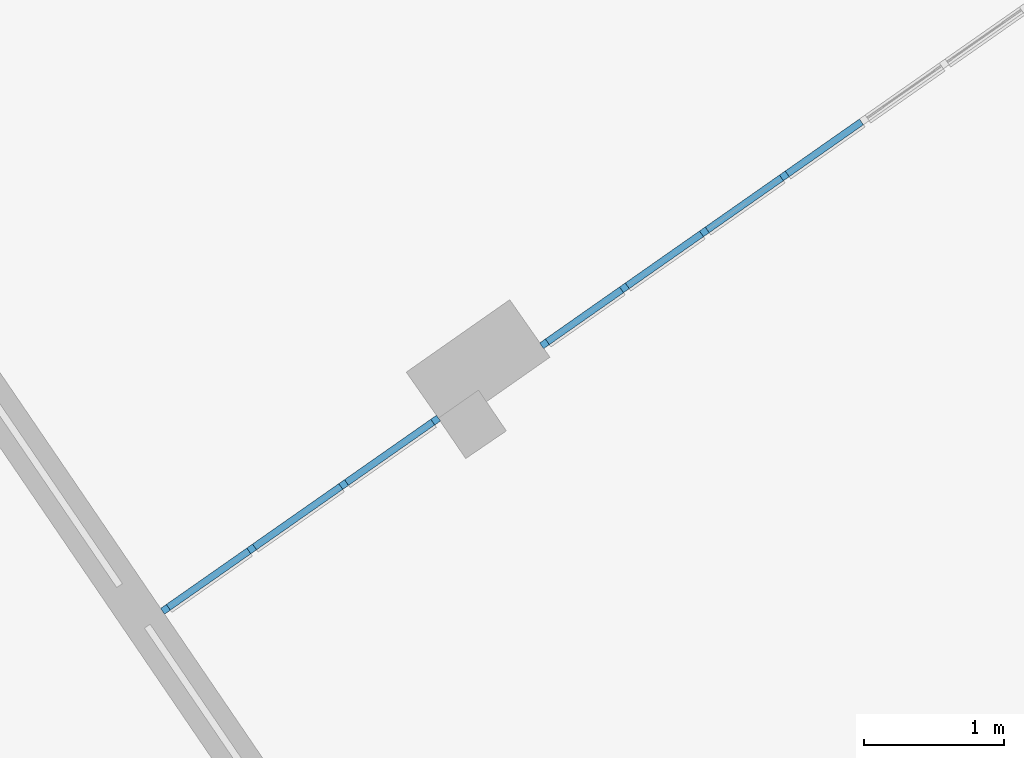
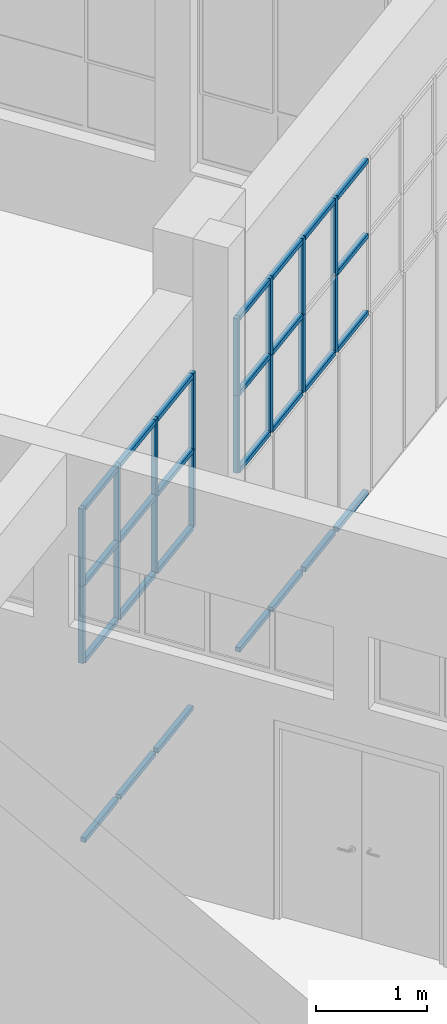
# One storey, part 36 of 157: 43 members, 2 elements without a shape of their own.
"""IFC2X3 building model written with IfcOpenShell, lengths in millimetres."""

from ifc_helpers import new_model, entity, si_unit, converted_unit, derived_unit, direction, frame, origin, origin_2d_with_axis, place, context, subcontext, project, spatial, rectangle, extrude, source, transform, mapped, material, type_object, type_shapes, element, aggregate, save


model = new_model("IFC2X3")

# Units and contexts
model_context = context("Model", 3, precision=0.01, world=origin(), true_north=direction((6.123031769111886e-17, 1.0)))
body_context = subcontext(model_context, "Body", "Model", "MODEL_VIEW")
ifc_project = project(units=[si_unit("LENGTHUNIT", "METRE", prefix="MILLI"), si_unit("AREAUNIT", "SQUARE_METRE"), si_unit("VOLUMEUNIT", "CUBIC_METRE"), converted_unit("PLANEANGLEUNIT", "DEGREE", entity("IfcRatioMeasure", 0.017453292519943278), si_unit("PLANEANGLEUNIT", "RADIAN"), dimensions=[0, 0, 0, 0, 0, 0, 0]), si_unit("MASSUNIT", "GRAM", prefix="KILO"), derived_unit("MASSDENSITYUNIT", [(si_unit("MASSUNIT", "GRAM", prefix="KILO"), 1), (si_unit("LENGTHUNIT", "METRE"), -3)]), derived_unit("MOMENTOFINERTIAUNIT", [(si_unit("LENGTHUNIT", "METRE"), 4)]), si_unit("TIMEUNIT", "SECOND"), si_unit("FREQUENCYUNIT", "HERTZ"), si_unit("THERMODYNAMICTEMPERATUREUNIT", "DEGREE_CELSIUS"), derived_unit("THERMALTRANSMITTANCEUNIT", [(si_unit("MASSUNIT", "GRAM", prefix="KILO"), 1), (si_unit("THERMODYNAMICTEMPERATUREUNIT", "KELVIN"), -1), (si_unit("TIMEUNIT", "SECOND"), -3)]), derived_unit("THERMALCONDUCTANCEUNIT", [(si_unit("MASSUNIT", "GRAM", prefix="KILO"), 1), (si_unit("LENGTHUNIT", "METRE"), 1), (si_unit("THERMODYNAMICTEMPERATUREUNIT", "KELVIN"), -1), (si_unit("TIMEUNIT", "SECOND"), -3)]), derived_unit("VOLUMETRICFLOWRATEUNIT", [(si_unit("LENGTHUNIT", "METRE"), 3), (si_unit("TIMEUNIT", "SECOND"), -1)]), derived_unit("MASSFLOWRATEUNIT", [(si_unit("MASSUNIT", "GRAM", prefix="KILO"), 1), (si_unit("TIMEUNIT", "SECOND"), -1)]), derived_unit("ROTATIONALFREQUENCYUNIT", [(si_unit("TIMEUNIT", "SECOND"), -1)]), si_unit("ELECTRICCURRENTUNIT", "AMPERE"), si_unit("ELECTRICVOLTAGEUNIT", "VOLT"), si_unit("POWERUNIT", "WATT"), converted_unit("FORCEUNIT", "KIP", entity("IfcRatioMeasure", 2.088543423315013e-05), si_unit("FORCEUNIT", "NEWTON"), dimensions=[1, 1, -2, 0, 0, 0, 0]), si_unit("ILLUMINANCEUNIT", "LUX"), si_unit("LUMINOUSFLUXUNIT", "LUMEN"), si_unit("LUMINOUSINTENSITYUNIT", "CANDELA"), derived_unit("USERDEFINED", [(si_unit("MASSUNIT", "GRAM", prefix="KILO"), -1), (si_unit("LENGTHUNIT", "METRE"), -2), (si_unit("TIMEUNIT", "SECOND"), 3), (si_unit("LUMINOUSFLUXUNIT", "LUMEN"), 1)]), derived_unit("USERDEFINED", [(si_unit("MASSUNIT", "GRAM", prefix="KILO"), 1), (si_unit("LENGTHUNIT", "METRE"), 3), (si_unit("TIMEUNIT", "SECOND"), -3), (si_unit("ELECTRICCURRENTUNIT", "AMPERE"), -2)]), derived_unit("USERDEFINED", [(si_unit("LENGTHUNIT", "METRE"), 2), (si_unit("TIMEUNIT", "SECOND"), -2)]), derived_unit("SOUNDPOWERUNIT", [(si_unit("MASSUNIT", "GRAM", prefix="KILO"), 1), (si_unit("LENGTHUNIT", "METRE"), 2), (si_unit("TIMEUNIT", "SECOND"), -3)]), derived_unit("SOUNDPRESSUREUNIT", [(si_unit("MASSUNIT", "GRAM", prefix="KILO"), 1), (si_unit("LENGTHUNIT", "METRE"), -1), (si_unit("TIMEUNIT", "SECOND"), -2)]), derived_unit("LINEARVELOCITYUNIT", [(si_unit("LENGTHUNIT", "METRE"), 1), (si_unit("TIMEUNIT", "SECOND"), -1)]), si_unit("PRESSUREUNIT", "PASCAL"), derived_unit("USERDEFINED", [(si_unit("LENGTHUNIT", "METRE"), -2), (si_unit("MASSUNIT", "GRAM", prefix="KILO"), 1), (si_unit("TIMEUNIT", "SECOND"), -2)]), derived_unit("LINEARFORCEUNIT", [(si_unit("MASSUNIT", "GRAM", prefix="KILO"), 1), (si_unit("LENGTHUNIT", "METRE"), 1), (si_unit("TIMEUNIT", "SECOND"), -2), (si_unit("LENGTHUNIT", "METRE"), -1)]), derived_unit("PLANARFORCEUNIT", [(si_unit("MASSUNIT", "GRAM", prefix="KILO"), 1), (si_unit("LENGTHUNIT", "METRE"), 1), (si_unit("TIMEUNIT", "SECOND"), -2), (si_unit("LENGTHUNIT", "METRE"), -2)]), derived_unit("SPECIFICHEATCAPACITYUNIT", [(si_unit("LENGTHUNIT", "METRE"), 2), (si_unit("TIMEUNIT", "SECOND"), -2), (si_unit("THERMODYNAMICTEMPERATUREUNIT", "KELVIN"), -1)]), derived_unit("VAPORPERMEABILITYUNIT", [(si_unit("TIMEUNIT", "SECOND"), 1), (si_unit("LENGTHUNIT", "METRE"), -1)]), derived_unit("DYNAMICVISCOSITYUNIT", [(si_unit("MASSUNIT", "GRAM", prefix="KILO"), 1), (si_unit("LENGTHUNIT", "METRE"), -1), (si_unit("TIMEUNIT", "SECOND"), -1)]), derived_unit("THERMALEXPANSIONCOEFFICIENTUNIT", [(si_unit("THERMODYNAMICTEMPERATUREUNIT", "KELVIN"), -1)])], contexts=[model_context])

# Site, building, storey
site_placement = place(None, frame((0.0, 0.0, 0.0), z_axis=(0.0, 0.0, 1.0), x_axis=(0.8191520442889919, 0.5735764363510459, 0.0)))
site = spatial("IfcSite", under=ifc_project, at=site_placement, Name="Default", CompositionType="ELEMENT")
building_placement = place(site_placement, origin())
building = spatial("IfcBuilding", under=site, at=building_placement, CompositionType="ELEMENT")
storey_placement = place(building_placement, origin())
storey = spatial("IfcBuildingStorey", under=building, at=storey_placement, Name="1.EG +0.00", CompositionType="ELEMENT", Elevation=-4.331468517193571e-12)

# Curtain wall, members
curtain_wall_type = type_object("IfcCurtainWallType", Name="Curtain Wall:Curtain_Wall_CJC_Int5", PredefinedType="NOTDEFINED")
curtain_wall_1_placement = place(storey_placement, origin())
curtain_wall_1 = element("IfcCurtainWall", 1, at=curtain_wall_1_placement, inside=storey, type_object=curtain_wall_type, Name="Curtain Wall:Curtain_Wall_CJC_Int5", ObjectType="Curtain Wall:Curtain_Wall_CJC_Int5")
ifc_material = material(Name="Aluminium")
member_type_1 = type_object("IfcMemberType", Name="Rectangular Mullion:5x5", PredefinedType="MULLION", material=ifc_material)
shared_shape_1 = source(origin(), body_context, "Body", "SweptSolid", [
    extrude(rectangle(XDim=50.0, YDim=50.0, at=origin_2d_with_axis()), frame((-25.0, 0.0, -850.0), z_axis=(0.0, 0.0, 1.0), x_axis=(0.0, -1.0, 0.0)), (0.0, 0.0, 1.0), 850.0),
])
type_shapes(member_type_1, [shared_shape_1])
member_1_placement = place(curtain_wall_1_placement, frame((-210936.61448951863, 79246.35891435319, 3700.0), z_axis=(0.0, 0.0, 1.0), x_axis=(-1.0, 0.0, 0.0)))
member_1 = element("IfcMember", 2, at=member_1_placement, type_object=member_type_1, material=ifc_material, Name="Rectangular Mullion:5x5", ObjectType="Rectangular Mullion:5x5", context=body_context, shape_type="MappedRepresentation", body=[
    mapped(shared_shape_1, transform((0.0, 0.0, 0.0), scale=1.0)),
])
member_type_2 = type_object("IfcMemberType", Name="Rectangular Mullion:5x5", PredefinedType="MULLION", material=ifc_material)
shared_shape_2 = source(origin(), body_context, "Body", "SweptSolid", [
    extrude(rectangle(XDim=50.000000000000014, YDim=50.0, at=origin_2d_with_axis()), frame((-25.0, 0.0, -646.0959133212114), z_axis=(0.0, 0.0, 1.0), x_axis=(0.0, -1.0, 0.0)), (0.0, 0.0, 1.0), 646.0959133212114),
])
type_shapes(member_type_2, [shared_shape_2])
member_2_placement = place(curtain_wall_1_placement, frame((-208848.32675016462, 79246.35891435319, 3700.0), z_axis=(1.0, 0.0, 0.0), x_axis=(0.0, 0.0, 1.0)))
member_2 = element("IfcMember", 3, at=member_2_placement, type_object=member_type_2, material=ifc_material, Name="Rectangular Mullion:5x5", ObjectType="Rectangular Mullion:5x5", context=body_context, shape_type="MappedRepresentation", body=[
    mapped(shared_shape_2, transform((0.0, 0.0, 0.0), scale=1.0)),
])
member_3_placement = place(curtain_wall_1_placement, frame((-208152.23083714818, 79246.35891435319, 3700.0), z_axis=(1.0, 0.0, 0.0), x_axis=(0.0, 0.0, 1.0)))
member_3 = element("IfcMember", 4, at=member_3_placement, type_object=member_type_2, material=ifc_material, Name="Rectangular Mullion:5x5", ObjectType="Rectangular Mullion:5x5", context=body_context, shape_type="MappedRepresentation", body=[
    mapped(shared_shape_2, transform((0.0, 0.0, 0.0), scale=1.0)),
])
member_4_placement = place(curtain_wall_1_placement, frame((-210240.51857619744, 79246.35891435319, 3700.0), z_axis=(1.0, 0.0, 0.0), x_axis=(0.0, 0.0, 1.0)))
member_4 = element("IfcMember", 5, at=member_4_placement, type_object=member_type_2, material=ifc_material, Name="Rectangular Mullion:5x5", ObjectType="Rectangular Mullion:5x5", context=body_context, shape_type="MappedRepresentation", body=[
    mapped(shared_shape_2, transform((0.0, 0.0, 0.0), scale=1.0)),
])
member_5_placement = place(curtain_wall_1_placement, frame((-209544.422663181, 79246.35891435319, 3700.0), z_axis=(1.0, 0.0, 0.0), x_axis=(0.0, 0.0, 1.0)))
member_5 = element("IfcMember", 6, at=member_5_placement, type_object=member_type_2, material=ifc_material, Name="Rectangular Mullion:5x5", ObjectType="Rectangular Mullion:5x5", context=body_context, shape_type="MappedRepresentation", body=[
    mapped(shared_shape_2, transform((0.0, 0.0, 0.0), scale=1.0)),
])
member_type_3 = type_object("IfcMemberType", Name="Rectangular Mullion:5x5", PredefinedType="MULLION", material=ifc_material)
shared_shape_3 = source(origin(), body_context, "Body", "SweptSolid", [
    extrude(rectangle(XDim=50.000000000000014, YDim=50.0, at=origin_2d_with_axis()), frame((-25.0, 0.0, -646.0959133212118), z_axis=(0.0, 0.0, 1.0), x_axis=(0.0, -1.0, 0.0)), (0.0, 0.0, 1.0), 646.0959133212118),
])
type_shapes(member_type_3, [shared_shape_3])
member_6_placement = place(curtain_wall_1_placement, frame((-210886.61448951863, 79246.35891435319, 0.0), z_axis=(-1.0, 0.0, 0.0), x_axis=(0.0, 0.0, -1.0)))
member_6 = element("IfcMember", 7, at=member_6_placement, type_object=member_type_3, material=ifc_material, Name="Rectangular Mullion:5x5", ObjectType="Rectangular Mullion:5x5", context=body_context, shape_type="MappedRepresentation", body=[
    mapped(shared_shape_3, transform((0.0, 0.0, 0.0), scale=1.0)),
])
member_7_placement = place(curtain_wall_1_placement, frame((-208798.3267501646, 79246.35891435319, 0.0), z_axis=(-1.0, 0.0, 0.0), x_axis=(0.0, 0.0, -1.0)))
member_7 = element("IfcMember", 8, at=member_7_placement, type_object=member_type_3, material=ifc_material, Name="Rectangular Mullion:5x5", ObjectType="Rectangular Mullion:5x5", context=body_context, shape_type="MappedRepresentation", body=[
    mapped(shared_shape_3, transform((0.0, 0.0, 0.0), scale=1.0)),
])
member_8_placement = place(curtain_wall_1_placement, frame((-210190.5185761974, 79246.35891435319, 0.0), z_axis=(-1.0, 0.0, 0.0), x_axis=(0.0, 0.0, -1.0)))
member_8 = element("IfcMember", 9, at=member_8_placement, type_object=member_type_3, material=ifc_material, Name="Rectangular Mullion:5x5", ObjectType="Rectangular Mullion:5x5", context=body_context, shape_type="MappedRepresentation", body=[
    mapped(shared_shape_3, transform((0.0, 0.0, 0.0), scale=1.0)),
])
member_9_placement = place(curtain_wall_1_placement, frame((-209494.42266318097, 79246.35891435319, 0.0), z_axis=(-1.0, 0.0, 0.0), x_axis=(0.0, 0.0, -1.0)))
member_9 = element("IfcMember", 10, at=member_9_placement, type_object=member_type_3, material=ifc_material, Name="Rectangular Mullion:5x5", ObjectType="Rectangular Mullion:5x5", context=body_context, shape_type="MappedRepresentation", body=[
    mapped(shared_shape_3, transform((0.0, 0.0, 0.0), scale=1.0)),
])
member_type_4 = type_object("IfcMemberType", Name="Rectangular Mullion:5x5", PredefinedType="MULLION", material=ifc_material)
shared_shape_4 = source(origin(), body_context, "Body", "SweptSolid", [
    extrude(rectangle(XDim=50.0, YDim=50.0, at=origin_2d_with_axis()), frame((-25.0, 0.0, -850.0), z_axis=(0.0, 0.0, 1.0), x_axis=(0.0, -1.0, 0.0)), (0.0, 0.0, 1.0), 850.0),
])
type_shapes(member_type_4, [shared_shape_4])
member_10_placement = place(curtain_wall_1_placement, frame((-210936.61448951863, 79246.35891435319, 2850.0), z_axis=(0.0, 0.0, 1.0), x_axis=(-1.0, 0.0, 0.0)))
member_10 = element("IfcMember", 11, at=member_10_placement, type_object=member_type_4, material=ifc_material, Name="Rectangular Mullion:5x5", ObjectType="Rectangular Mullion:5x5", context=body_context, shape_type="MappedRepresentation", body=[
    mapped(shared_shape_4, transform((0.0, 0.0, 0.0), scale=1.0)),
])
member_type_5 = type_object("IfcMemberType", Name="Rectangular Mullion:5x5", PredefinedType="MULLION", material=ifc_material)
shared_shape_5 = source(origin(), body_context, "Body", "SweptSolid", [
    extrude(rectangle(XDim=50.0, YDim=50.0, at=origin_2d_with_axis()), frame((0.0, 0.0, -646.0959133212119), z_axis=(0.0, 0.0, 1.0), x_axis=(0.0, -1.0, 0.0)), (0.0, 0.0, 1.0), 646.0959133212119),
])
type_shapes(member_type_5, [shared_shape_5])
member_11_placement = place(curtain_wall_1_placement, frame((-210240.51857619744, 79246.35891435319, 2000.0), z_axis=(1.0, 0.0, 0.0), x_axis=(0.0, 0.0, 1.0)))
member_11 = element("IfcMember", 12, at=member_11_placement, type_object=member_type_5, material=ifc_material, Name="Rectangular Mullion:5x5", ObjectType="Rectangular Mullion:5x5", context=body_context, shape_type="MappedRepresentation", body=[
    mapped(shared_shape_5, transform((0.0, 0.0, 0.0), scale=1.0)),
])
member_12_placement = place(curtain_wall_1_placement, frame((-208152.23083714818, 79246.35891435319, 2000.0), z_axis=(1.0, 0.0, 0.0), x_axis=(0.0, 0.0, 1.0)))
member_12 = element("IfcMember", 13, at=member_12_placement, type_object=member_type_5, material=ifc_material, Name="Rectangular Mullion:5x5", ObjectType="Rectangular Mullion:5x5", context=body_context, shape_type="MappedRepresentation", body=[
    mapped(shared_shape_5, transform((0.0, 0.0, 0.0), scale=1.0)),
])
member_13_placement = place(curtain_wall_1_placement, frame((-210240.51857619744, 79246.35891435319, 2850.0), z_axis=(1.0, 0.0, 0.0), x_axis=(0.0, 0.0, 1.0)))
member_13 = element("IfcMember", 14, at=member_13_placement, type_object=member_type_5, material=ifc_material, Name="Rectangular Mullion:5x5", ObjectType="Rectangular Mullion:5x5", context=body_context, shape_type="MappedRepresentation", body=[
    mapped(shared_shape_5, transform((0.0, 0.0, 0.0), scale=1.0)),
])
member_14_placement = place(curtain_wall_1_placement, frame((-208152.23083714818, 79246.35891435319, 2850.0), z_axis=(1.0, 0.0, 0.0), x_axis=(0.0, 0.0, 1.0)))
member_14 = element("IfcMember", 15, at=member_14_placement, type_object=member_type_5, material=ifc_material, Name="Rectangular Mullion:5x5", ObjectType="Rectangular Mullion:5x5", context=body_context, shape_type="MappedRepresentation", body=[
    mapped(shared_shape_5, transform((0.0, 0.0, 0.0), scale=1.0)),
])
member_15_placement = place(curtain_wall_1_placement, frame((-209544.422663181, 79246.35891435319, 2000.0), z_axis=(1.0, 0.0, 0.0), x_axis=(0.0, 0.0, 1.0)))
member_15 = element("IfcMember", 16, at=member_15_placement, type_object=member_type_5, material=ifc_material, Name="Rectangular Mullion:5x5", ObjectType="Rectangular Mullion:5x5", context=body_context, shape_type="MappedRepresentation", body=[
    mapped(shared_shape_5, transform((0.0, 0.0, 0.0), scale=1.0)),
])
member_16_placement = place(curtain_wall_1_placement, frame((-208848.32675016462, 79246.35891435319, 2000.0), z_axis=(1.0, 0.0, 0.0), x_axis=(0.0, 0.0, 1.0)))
member_16 = element("IfcMember", 17, at=member_16_placement, type_object=member_type_5, material=ifc_material, Name="Rectangular Mullion:5x5", ObjectType="Rectangular Mullion:5x5", context=body_context, shape_type="MappedRepresentation", body=[
    mapped(shared_shape_5, transform((0.0, 0.0, 0.0), scale=1.0)),
])
member_17_placement = place(curtain_wall_1_placement, frame((-209544.422663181, 79246.35891435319, 2850.0), z_axis=(1.0, 0.0, 0.0), x_axis=(0.0, 0.0, 1.0)))
member_17 = element("IfcMember", 18, at=member_17_placement, type_object=member_type_5, material=ifc_material, Name="Rectangular Mullion:5x5", ObjectType="Rectangular Mullion:5x5", context=body_context, shape_type="MappedRepresentation", body=[
    mapped(shared_shape_5, transform((0.0, 0.0, 0.0), scale=1.0)),
])
member_type_6 = type_object("IfcMemberType", Name="Rectangular Mullion:5x5", PredefinedType="MULLION", material=ifc_material)
shared_shape_6 = source(origin(), body_context, "Body", "SweptSolid", [
    extrude(rectangle(XDim=50.0, YDim=50.0, at=origin_2d_with_axis()), frame((0.0, 0.0, -850.0), z_axis=(0.0, 0.0, 1.0), x_axis=(0.0, -1.0, 0.0)), (0.0, 0.0, 1.0), 850.0),
])
type_shapes(member_type_6, [shared_shape_6])
member_18_placement = place(curtain_wall_1_placement, frame((-208823.3267501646, 79246.35891435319, 2000.0), z_axis=(0.0, 0.0, -1.0), x_axis=(1.0, 0.0, 0.0)))
member_18 = element("IfcMember", 19, at=member_18_placement, type_object=member_type_6, material=ifc_material, Name="Rectangular Mullion:5x5", ObjectType="Rectangular Mullion:5x5", context=body_context, shape_type="MappedRepresentation", body=[
    mapped(shared_shape_6, transform((0.0, 0.0, 0.0), scale=1.0)),
])
member_19_placement = place(curtain_wall_1_placement, frame((-209519.422663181, 79246.35891435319, 2000.0), z_axis=(0.0, 0.0, -1.0), x_axis=(1.0, 0.0, 0.0)))
member_19 = element("IfcMember", 20, at=member_19_placement, type_object=member_type_6, material=ifc_material, Name="Rectangular Mullion:5x5", ObjectType="Rectangular Mullion:5x5", context=body_context, shape_type="MappedRepresentation", body=[
    mapped(shared_shape_6, transform((0.0, 0.0, 0.0), scale=1.0)),
])
member_20_placement = place(curtain_wall_1_placement, frame((-210215.5185761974, 79246.35891435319, 2000.0), z_axis=(0.0, 0.0, -1.0), x_axis=(1.0, 0.0, 0.0)))
member_20 = element("IfcMember", 21, at=member_20_placement, type_object=member_type_6, material=ifc_material, Name="Rectangular Mullion:5x5", ObjectType="Rectangular Mullion:5x5", context=body_context, shape_type="MappedRepresentation", body=[
    mapped(shared_shape_6, transform((0.0, 0.0, 0.0), scale=1.0)),
])
member_type_7 = type_object("IfcMemberType", Name="Rectangular Mullion:5x5", PredefinedType="MULLION", material=ifc_material)
shared_shape_7 = source(origin(), body_context, "Body", "SweptSolid", [
    extrude(rectangle(XDim=50.0, YDim=50.0, at=origin_2d_with_axis()), frame((0.0, 0.0, -850.0), z_axis=(0.0, 0.0, 1.0), x_axis=(0.0, -1.0, 0.0)), (0.0, 0.0, 1.0), 850.0),
])
type_shapes(member_type_7, [shared_shape_7])
member_21_placement = place(curtain_wall_1_placement, frame((-208823.3267501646, 79246.35891435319, 2850.0), z_axis=(0.0, 0.0, -1.0), x_axis=(1.0, 0.0, 0.0)))
member_21 = element("IfcMember", 22, at=member_21_placement, type_object=member_type_7, material=ifc_material, Name="Rectangular Mullion:5x5", ObjectType="Rectangular Mullion:5x5", context=body_context, shape_type="MappedRepresentation", body=[
    mapped(shared_shape_7, transform((0.0, 0.0, 0.0), scale=1.0)),
])
member_22_placement = place(curtain_wall_1_placement, frame((-209519.422663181, 79246.35891435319, 2850.0), z_axis=(0.0, 0.0, -1.0), x_axis=(1.0, 0.0, 0.0)))
member_22 = element("IfcMember", 23, at=member_22_placement, type_object=member_type_7, material=ifc_material, Name="Rectangular Mullion:5x5", ObjectType="Rectangular Mullion:5x5", context=body_context, shape_type="MappedRepresentation", body=[
    mapped(shared_shape_7, transform((0.0, 0.0, 0.0), scale=1.0)),
])
member_23_placement = place(curtain_wall_1_placement, frame((-210215.5185761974, 79246.35891435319, 2850.0), z_axis=(0.0, 0.0, -1.0), x_axis=(1.0, 0.0, 0.0)))
member_23 = element("IfcMember", 24, at=member_23_placement, type_object=member_type_7, material=ifc_material, Name="Rectangular Mullion:5x5", ObjectType="Rectangular Mullion:5x5", context=body_context, shape_type="MappedRepresentation", body=[
    mapped(shared_shape_7, transform((0.0, 0.0, 0.0), scale=1.0)),
])
aggregate(curtain_wall_1, [member_1, member_2, member_6, member_10, member_3, member_7, member_11, member_12, member_13, member_14, member_18, member_21, member_4, member_5, member_8, member_9, member_15, member_16, member_17, member_19, member_20, member_22, member_23])

curtain_wall_2_placement = place(storey_placement, origin())
curtain_wall_2 = element("IfcCurtainWall", 25, at=curtain_wall_2_placement, inside=storey, type_object=curtain_wall_type, Name="Curtain Wall:Curtain_Wall_CJC_Int5", ObjectType="Curtain Wall:Curtain_Wall_CJC_Int5")
member_type_8 = type_object("IfcMemberType", Name="Rectangular Mullion:5x5", PredefinedType="MULLION", material=ifc_material)
shared_shape_8 = source(origin(), body_context, "Body", "SweptSolid", [
    extrude(rectangle(XDim=50.000000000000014, YDim=50.0, at=origin_2d_with_axis()), frame((-25.0, 0.0, -700.7135105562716), z_axis=(0.0, 0.0, 1.0), x_axis=(0.0, -1.0, 0.0)), (0.0, 0.0, 1.0), 700.7135105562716),
])
type_shapes(member_type_8, [shared_shape_8])
member_24_placement = place(curtain_wall_2_placement, frame((-214186.56981545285, 79245.87276745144, 3700.0), z_axis=(-1.0, 0.0, 0.0), x_axis=(0.0, 0.0, 1.0)))
member_24 = element("IfcMember", 26, at=member_24_placement, type_object=member_type_8, material=ifc_material, Name="Rectangular Mullion:5x5", ObjectType="Rectangular Mullion:5x5", context=body_context, shape_type="MappedRepresentation", body=[
    mapped(shared_shape_8, transform((0.0, 0.0, 0.0), scale=1.0)),
])
member_type_9 = type_object("IfcMemberType", Name="Rectangular Mullion:5x5", PredefinedType="MULLION", material=ifc_material)
shared_shape_9 = source(origin(), body_context, "Body", "SweptSolid", [
    extrude(rectangle(XDim=50.000000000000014, YDim=50.0, at=origin_2d_with_axis()), frame((-25.0, 0.0, -750.7135105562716), z_axis=(0.0, 0.0, 1.0), x_axis=(0.0, -1.0, 0.0)), (0.0, 0.0, 1.0), 750.7135105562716),
])
type_shapes(member_type_9, [shared_shape_9])
member_25_placement = place(curtain_wall_2_placement, frame((-212635.14279464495, 79245.87276745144, 3700.0), z_axis=(-1.0, 0.0, 0.0), x_axis=(0.0, 0.0, 1.0)))
member_25 = element("IfcMember", 27, at=member_25_placement, type_object=member_type_9, material=ifc_material, Name="Rectangular Mullion:5x5", ObjectType="Rectangular Mullion:5x5", context=body_context, shape_type="MappedRepresentation", body=[
    mapped(shared_shape_9, transform((0.0, 0.0, 0.0), scale=1.0)),
])
member_26_placement = place(curtain_wall_2_placement, frame((-213435.85630489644, 79245.87276745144, 3700.0), z_axis=(-1.0, 0.0, 0.0), x_axis=(0.0, 0.0, 1.0)))
member_26 = element("IfcMember", 28, at=member_26_placement, type_object=member_type_9, material=ifc_material, Name="Rectangular Mullion:5x5", ObjectType="Rectangular Mullion:5x5", context=body_context, shape_type="MappedRepresentation", body=[
    mapped(shared_shape_9, transform((0.0, 0.0, 0.0), scale=1.0)),
])
member_type_10 = type_object("IfcMemberType", Name="Rectangular Mullion:5x5", PredefinedType="MULLION", material=ifc_material)
shared_shape_10 = source(origin(), body_context, "Body", "SweptSolid", [
    extrude(rectangle(XDim=50.000000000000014, YDim=50.0, at=origin_2d_with_axis()), frame((-25.0, 0.0, -750.7135105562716), z_axis=(0.0, 0.0, 1.0), x_axis=(0.0, -1.0, 0.0)), (0.0, 0.0, 1.0), 750.7135105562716),
])
type_shapes(member_type_10, [shared_shape_10])
member_27_placement = place(curtain_wall_2_placement, frame((-211884.4292840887, 79245.87276745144, 0.0), z_axis=(1.0, 0.0, 0.0), x_axis=(0.0, 0.0, -1.0)))
member_27 = element("IfcMember", 29, at=member_27_placement, type_object=member_type_10, material=ifc_material, Name="Rectangular Mullion:5x5", ObjectType="Rectangular Mullion:5x5", context=body_context, shape_type="MappedRepresentation", body=[
    mapped(shared_shape_10, transform((0.0, 0.0, 0.0), scale=1.0)),
])
member_28_placement = place(curtain_wall_2_placement, frame((-212685.14279464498, 79245.87276745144, 0.0), z_axis=(1.0, 0.0, 0.0), x_axis=(0.0, 0.0, -1.0)))
member_28 = element("IfcMember", 30, at=member_28_placement, type_object=member_type_10, material=ifc_material, Name="Rectangular Mullion:5x5", ObjectType="Rectangular Mullion:5x5", context=body_context, shape_type="MappedRepresentation", body=[
    mapped(shared_shape_10, transform((0.0, 0.0, 0.0), scale=1.0)),
])
member_type_11 = type_object("IfcMemberType", Name="Rectangular Mullion:5x5", PredefinedType="MULLION", material=ifc_material)
shared_shape_11 = source(origin(), body_context, "Body", "SweptSolid", [
    extrude(rectangle(XDim=50.000000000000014, YDim=50.0, at=origin_2d_with_axis()), frame((-25.0, 0.0, -700.7135105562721), z_axis=(0.0, 0.0, 1.0), x_axis=(0.0, -1.0, 0.0)), (0.0, 0.0, 1.0), 700.7135105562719),
])
type_shapes(member_type_11, [shared_shape_11])
member_29_placement = place(curtain_wall_2_placement, frame((-213485.85630489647, 79245.87276745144, 0.0), z_axis=(1.0, 0.0, 0.0), x_axis=(0.0, 0.0, -1.0)))
member_29 = element("IfcMember", 31, at=member_29_placement, type_object=member_type_11, material=ifc_material, Name="Rectangular Mullion:5x5", ObjectType="Rectangular Mullion:5x5", context=body_context, shape_type="MappedRepresentation", body=[
    mapped(shared_shape_11, transform((0.0, 0.0, 0.0), scale=1.0)),
])
member_type_12 = type_object("IfcMemberType", Name="Rectangular Mullion:5x5", PredefinedType="MULLION", material=ifc_material)
shared_shape_12 = source(origin(), body_context, "Body", "SweptSolid", [
    extrude(rectangle(XDim=50.0, YDim=50.0, at=origin_2d_with_axis()), frame((-25.0, 0.0, -850.0), z_axis=(0.0, 0.0, 1.0), x_axis=(0.0, -1.0, 0.0)), (0.0, 0.0, 1.0), 850.0),
])
type_shapes(member_type_12, [shared_shape_12])
member_30_placement = place(curtain_wall_2_placement, frame((-214236.56981545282, 79245.87276745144, 2000.0), z_axis=(0.0, 0.0, -1.0), x_axis=(-1.0, 0.0, 0.0)))
member_30 = element("IfcMember", 32, at=member_30_placement, type_object=member_type_12, material=ifc_material, Name="Rectangular Mullion:5x5", ObjectType="Rectangular Mullion:5x5", context=body_context, shape_type="MappedRepresentation", body=[
    mapped(shared_shape_12, transform((0.0, 0.0, 0.0), scale=1.0)),
])
member_type_13 = type_object("IfcMemberType", Name="Rectangular Mullion:5x5", PredefinedType="MULLION", material=ifc_material)
shared_shape_13 = source(origin(), body_context, "Body", "SweptSolid", [
    extrude(rectangle(XDim=50.0, YDim=50.0, at=origin_2d_with_axis()), frame((-25.0, 0.0, -850.0), z_axis=(0.0, 0.0, 1.0), x_axis=(0.0, -1.0, 0.0)), (0.0, 0.0, 1.0), 850.0),
])
type_shapes(member_type_13, [shared_shape_13])
member_31_placement = place(curtain_wall_2_placement, frame((-214236.56981545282, 79245.87276745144, 2850.0), z_axis=(0.0, 0.0, -1.0), x_axis=(-1.0, 0.0, 0.0)))
member_31 = element("IfcMember", 33, at=member_31_placement, type_object=member_type_13, material=ifc_material, Name="Rectangular Mullion:5x5", ObjectType="Rectangular Mullion:5x5", context=body_context, shape_type="MappedRepresentation", body=[
    mapped(shared_shape_13, transform((0.0, 0.0, 0.0), scale=1.0)),
])
member_type_14 = type_object("IfcMemberType", Name="Rectangular Mullion:5x5", PredefinedType="MULLION", material=ifc_material)
shared_shape_14 = source(origin(), body_context, "Body", "SweptSolid", [
    extrude(rectangle(XDim=50.0, YDim=50.0, at=origin_2d_with_axis()), frame((-25.0, 0.0, -850.0), z_axis=(0.0, 0.0, 1.0), x_axis=(0.0, -1.0, 0.0)), (0.0, 0.0, 1.0), 850.0),
])
type_shapes(member_type_14, [shared_shape_14])
member_32_placement = place(curtain_wall_2_placement, frame((-211834.42928408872, 79245.87276745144, 3700.0)))
member_32 = element("IfcMember", 34, at=member_32_placement, type_object=member_type_14, material=ifc_material, Name="Rectangular Mullion:5x5", ObjectType="Rectangular Mullion:5x5", context=body_context, shape_type="MappedRepresentation", body=[
    mapped(shared_shape_14, transform((0.0, 0.0, 0.0), scale=1.0)),
])
member_type_15 = type_object("IfcMemberType", Name="Rectangular Mullion:5x5", PredefinedType="MULLION", material=ifc_material)
shared_shape_15 = source(origin(), body_context, "Body", "SweptSolid", [
    extrude(rectangle(XDim=50.0, YDim=50.0, at=origin_2d_with_axis()), frame((-25.0, 0.0, -850.0), z_axis=(0.0, 0.0, 1.0), x_axis=(0.0, -1.0, 0.0)), (0.0, 0.0, 1.0), 850.0),
])
type_shapes(member_type_15, [shared_shape_15])
member_33_placement = place(curtain_wall_2_placement, frame((-211834.42928408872, 79245.87276745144, 2850.0)))
member_33 = element("IfcMember", 35, at=member_33_placement, type_object=member_type_15, material=ifc_material, Name="Rectangular Mullion:5x5", ObjectType="Rectangular Mullion:5x5", context=body_context, shape_type="MappedRepresentation", body=[
    mapped(shared_shape_15, transform((0.0, 0.0, 0.0), scale=1.0)),
])
member_type_16 = type_object("IfcMemberType", Name="Rectangular Mullion:5x5", PredefinedType="MULLION", material=ifc_material)
shared_shape_16 = source(origin(), body_context, "Body", "SweptSolid", [
    extrude(rectangle(XDim=50.0, YDim=50.0, at=origin_2d_with_axis()), frame((0.0, 0.0, -750.7135105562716), z_axis=(0.0, 0.0, 1.0), x_axis=(0.0, -1.0, 0.0)), (0.0, 0.0, 1.0), 750.7135105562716),
])
type_shapes(member_type_16, [shared_shape_16])
member_34_placement = place(curtain_wall_2_placement, frame((-212635.14279464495, 79245.87276745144, 2000.0), z_axis=(-1.0, 0.0, 0.0), x_axis=(0.0, 0.0, 1.0)))
member_34 = element("IfcMember", 36, at=member_34_placement, type_object=member_type_16, material=ifc_material, Name="Rectangular Mullion:5x5", ObjectType="Rectangular Mullion:5x5", context=body_context, shape_type="MappedRepresentation", body=[
    mapped(shared_shape_16, transform((0.0, 0.0, 0.0), scale=1.0)),
])
member_35_placement = place(curtain_wall_2_placement, frame((-213435.85630489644, 79245.87276745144, 2000.0), z_axis=(-1.0, 0.0, 0.0), x_axis=(0.0, 0.0, 1.0)))
member_35 = element("IfcMember", 37, at=member_35_placement, type_object=member_type_16, material=ifc_material, Name="Rectangular Mullion:5x5", ObjectType="Rectangular Mullion:5x5", context=body_context, shape_type="MappedRepresentation", body=[
    mapped(shared_shape_16, transform((0.0, 0.0, 0.0), scale=1.0)),
])
member_36_placement = place(curtain_wall_2_placement, frame((-212635.14279464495, 79245.87276745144, 2850.0), z_axis=(-1.0, 0.0, 0.0), x_axis=(0.0, 0.0, 1.0)))
member_36 = element("IfcMember", 38, at=member_36_placement, type_object=member_type_16, material=ifc_material, Name="Rectangular Mullion:5x5", ObjectType="Rectangular Mullion:5x5", context=body_context, shape_type="MappedRepresentation", body=[
    mapped(shared_shape_16, transform((0.0, 0.0, 0.0), scale=1.0)),
])
member_37_placement = place(curtain_wall_2_placement, frame((-213435.85630489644, 79245.87276745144, 2850.0), z_axis=(-1.0, 0.0, 0.0), x_axis=(0.0, 0.0, 1.0)))
member_37 = element("IfcMember", 39, at=member_37_placement, type_object=member_type_16, material=ifc_material, Name="Rectangular Mullion:5x5", ObjectType="Rectangular Mullion:5x5", context=body_context, shape_type="MappedRepresentation", body=[
    mapped(shared_shape_16, transform((0.0, 0.0, 0.0), scale=1.0)),
])
member_type_17 = type_object("IfcMemberType", Name="Rectangular Mullion:5x5", PredefinedType="MULLION", material=ifc_material)
shared_shape_17 = source(origin(), body_context, "Body", "SweptSolid", [
    extrude(rectangle(XDim=50.0, YDim=50.0, at=origin_2d_with_axis()), frame((0.0, 0.0, -700.7135105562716), z_axis=(0.0, 0.0, 1.0), x_axis=(0.0, -1.0, 0.0)), (0.0, 0.0, 1.0), 700.7135105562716),
])
type_shapes(member_type_17, [shared_shape_17])
member_38_placement = place(curtain_wall_2_placement, frame((-214186.56981545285, 79245.87276745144, 2000.0), z_axis=(-1.0, 0.0, 0.0), x_axis=(0.0, 0.0, 1.0)))
member_38 = element("IfcMember", 40, at=member_38_placement, type_object=member_type_17, material=ifc_material, Name="Rectangular Mullion:5x5", ObjectType="Rectangular Mullion:5x5", context=body_context, shape_type="MappedRepresentation", body=[
    mapped(shared_shape_17, transform((0.0, 0.0, 0.0), scale=1.0)),
])
member_39_placement = place(curtain_wall_2_placement, frame((-214186.56981545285, 79245.87276745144, 2850.0), z_axis=(-1.0, 0.0, 0.0), x_axis=(0.0, 0.0, 1.0)))
member_39 = element("IfcMember", 41, at=member_39_placement, type_object=member_type_17, material=ifc_material, Name="Rectangular Mullion:5x5", ObjectType="Rectangular Mullion:5x5", context=body_context, shape_type="MappedRepresentation", body=[
    mapped(shared_shape_17, transform((0.0, 0.0, 0.0), scale=1.0)),
])
member_type_18 = type_object("IfcMemberType", Name="Rectangular Mullion:5x5", PredefinedType="MULLION", material=ifc_material)
shared_shape_18 = source(origin(), body_context, "Body", "SweptSolid", [
    extrude(rectangle(XDim=50.0, YDim=50.0, at=origin_2d_with_axis()), frame((0.0, 0.0, -850.0), z_axis=(0.0, 0.0, 1.0), x_axis=(0.0, -1.0, 0.0)), (0.0, 0.0, 1.0), 850.0),
])
type_shapes(member_type_18, [shared_shape_18])
member_40_placement = place(curtain_wall_2_placement, frame((-212660.14279464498, 79245.87276745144, 2000.0), z_axis=(0.0, 0.0, -1.0), x_axis=(-1.0, 0.0, 0.0)))
member_40 = element("IfcMember", 42, at=member_40_placement, type_object=member_type_18, material=ifc_material, Name="Rectangular Mullion:5x5", ObjectType="Rectangular Mullion:5x5", context=body_context, shape_type="MappedRepresentation", body=[
    mapped(shared_shape_18, transform((0.0, 0.0, 0.0), scale=1.0)),
])
member_41_placement = place(curtain_wall_2_placement, frame((-213460.85630489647, 79245.87276745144, 2000.0), z_axis=(0.0, 0.0, -1.0), x_axis=(-1.0, 0.0, 0.0)))
member_41 = element("IfcMember", 43, at=member_41_placement, type_object=member_type_18, material=ifc_material, Name="Rectangular Mullion:5x5", ObjectType="Rectangular Mullion:5x5", context=body_context, shape_type="MappedRepresentation", body=[
    mapped(shared_shape_18, transform((0.0, 0.0, 0.0), scale=1.0)),
])
member_type_19 = type_object("IfcMemberType", Name="Rectangular Mullion:5x5", PredefinedType="MULLION", material=ifc_material)
shared_shape_19 = source(origin(), body_context, "Body", "SweptSolid", [
    extrude(rectangle(XDim=50.0, YDim=50.0, at=origin_2d_with_axis()), frame((0.0, 0.0, -850.0), z_axis=(0.0, 0.0, 1.0), x_axis=(0.0, -1.0, 0.0)), (0.0, 0.0, 1.0), 850.0),
])
type_shapes(member_type_19, [shared_shape_19])
member_42_placement = place(curtain_wall_2_placement, frame((-212660.14279464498, 79245.87276745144, 2850.0), z_axis=(0.0, 0.0, -1.0), x_axis=(-1.0, 0.0, 0.0)))
member_42 = element("IfcMember", 44, at=member_42_placement, type_object=member_type_19, material=ifc_material, Name="Rectangular Mullion:5x5", ObjectType="Rectangular Mullion:5x5", context=body_context, shape_type="MappedRepresentation", body=[
    mapped(shared_shape_19, transform((0.0, 0.0, 0.0), scale=1.0)),
])
member_43_placement = place(curtain_wall_2_placement, frame((-213460.85630489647, 79245.87276745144, 2850.0), z_axis=(0.0, 0.0, -1.0), x_axis=(-1.0, 0.0, 0.0)))
member_43 = element("IfcMember", 45, at=member_43_placement, type_object=member_type_19, material=ifc_material, Name="Rectangular Mullion:5x5", ObjectType="Rectangular Mullion:5x5", context=body_context, shape_type="MappedRepresentation", body=[
    mapped(shared_shape_19, transform((0.0, 0.0, 0.0), scale=1.0)),
])
aggregate(curtain_wall_2, [member_24, member_25, member_26, member_27, member_28, member_29, member_30, member_31, member_32, member_33, member_34, member_35, member_38, member_36, member_37, member_39, member_40, member_41, member_42, member_43])

save(model, "model.ifc")
